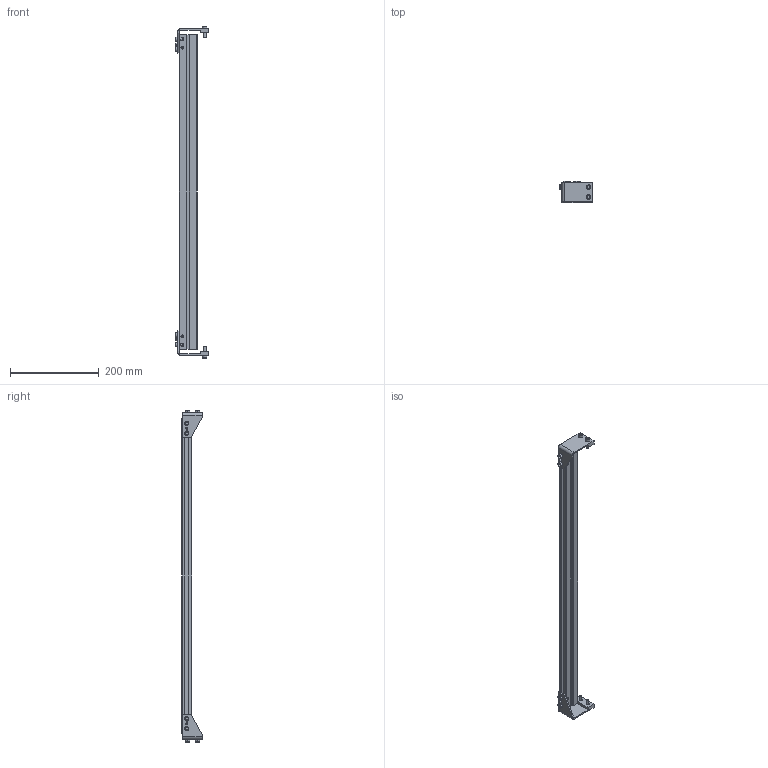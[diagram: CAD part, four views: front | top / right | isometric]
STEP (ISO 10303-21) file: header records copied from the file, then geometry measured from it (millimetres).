
FILE_DESCRIPTION((''),'2;1');
FILE_NAME('3076WWM_2_ASM','2023-03-15T',('jenni.wallner'),(''),'PRO/ENGINEER BY PARAMETRIC TECHNOLOGY CORPORATION, 2012420','PRO/ENGINEER BY PARAMETRIC TECHNOLOGY CORPORATION, 2012420','');
FILE_SCHEMA(('CONFIG_CONTROL_DESIGN'));
Length unit declared in the file: inch
Products named in the file (4): 677721_1; BRACKET_L; BRACKET_R; 3076WWM_2_ASM
Assembly tree (3 placements, depth 2):
  3076WWM_2_ASM
    677721_1
    BRACKET_L
    BRACKET_R
Bounding box: 76.2 x 46.13 x 748.02 mm (x, y, z)
Volume: 332779.8 mm3; surface area: 200637 mm2
Topology: 3 solids, 3 shells, 296 faces, 730 edges, 476 vertices
Faces by surface type: plane 188, cylinder 76, cone 32
Entity records: 8834 total; most frequent: DIRECTION 1520, CARTESIAN_POINT 1509, ORIENTED_EDGE 1460, EDGE_CURVE 730, VECTOR 546, LINE 546, AXIS2_PLACEMENT_3D 487, VERTEX_POINT 476
